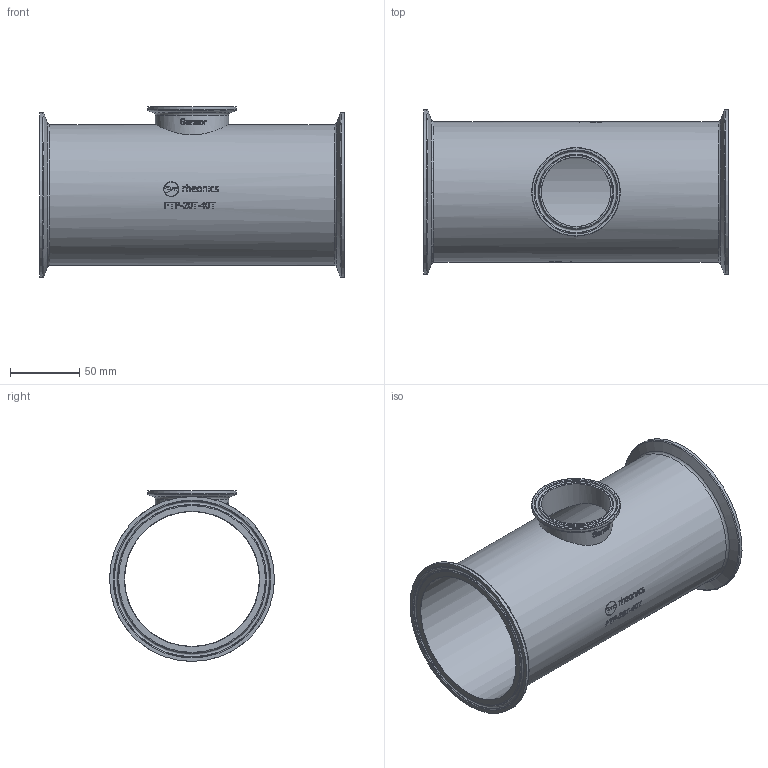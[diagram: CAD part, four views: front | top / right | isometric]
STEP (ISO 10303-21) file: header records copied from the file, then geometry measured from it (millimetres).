
FILE_DESCRIPTION(/* description */ ('Unknown'),/* implementation_level */ '2;1');
FILE_NAME(/* name */ 'FTP-20T-40T',/* time_stamp */ '2024-12-26T12:33:07-05:00',/* author */ ('Unknown'),/* organization */ ('Unknown'),/* preprocessor_version */ 'ST-DEVELOPER v16.7',/* originating_system */ 'Solid Edge',/* authorisation */ 'Unknown');
FILE_SCHEMA (('AUTOMOTIVE_DESIGN {1 0 10303 214 3 1 1}'));
Products named in the file (1): FTP-20T-40T
Bounding box: 220 x 119 x 123.3 mm (x, y, z)
Volume: 172210.1 mm3; surface area: 153956.6 mm2
Topology: 1 solids, 1 shells, 522 faces, 1305 edges, 863 vertices
Faces by surface type: bspline 220, plane 194, cylinder 81, torus 18, cone 9
Full cylindrical faces by diameter (mm): 50 x1, 53 x1, 64 x1, 97.38 x1, 101.6 x1, 119 x2
Entity records: 42587 total; most frequent: CARTESIAN_POINT 27964, ORIENTED_EDGE 2506, DIRECTION 1637, EDGE_CURVE 1253, VERTEX_POINT 857, EDGE_LOOP 650, FACE_BOUND 650, AXIS2_PLACEMENT_3D 546
